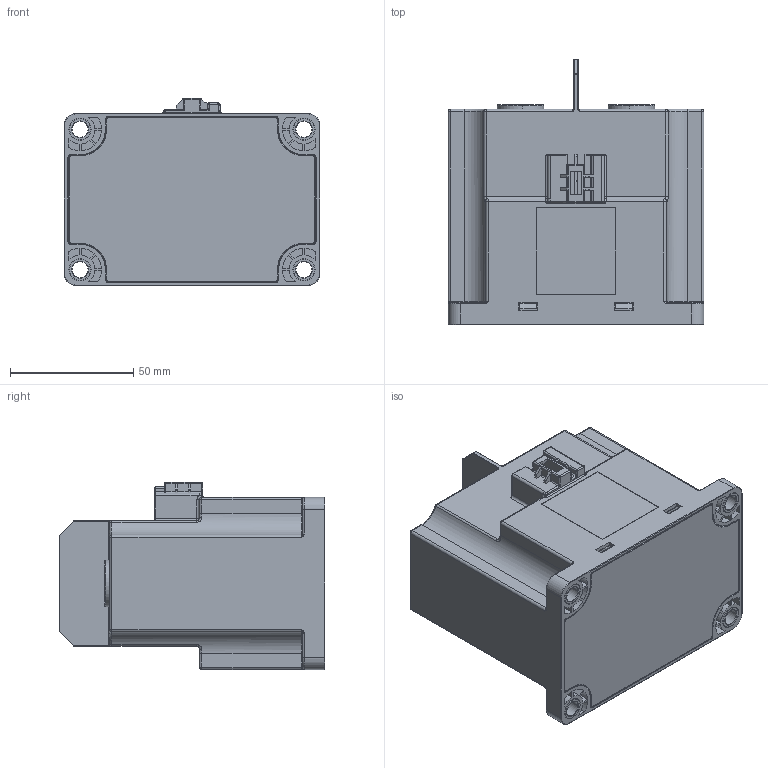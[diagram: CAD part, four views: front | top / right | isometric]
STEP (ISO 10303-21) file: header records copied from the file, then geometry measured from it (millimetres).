
FILE_DESCRIPTION (( 'STEP AP203' ), '1' );
FILE_NAME ('NDZ3AT-350杅耀.STEP', '2021-07-24T01:19:22', ( '' ), ( '' ), 'SwSTEP 2.0', 'SolidWorks 2018', '' );
FILE_SCHEMA (( 'CONFIG_CONTROL_DESIGN' ));
Length unit declared in the file: millimetre
Products named in the file (6): NDZ3AT-350杅耀; 5LD.004.0012; 8LD.005.0166; 8LD.005.0165; 8LD.144.0005; 5LD.005.0052
Assembly tree (8 placements, depth 3):
  NDZ3AT-350杅耀
    5LD.005.0052
      8LD.005.0165
      8LD.144.0005  x4
    5LD.004.0012
    8LD.005.0166
Bounding box: 104 x 107.9 x 76.1 mm (x, y, z)
Volume: 84391.9 mm3; surface area: 127372 mm2
Topology: 6 solids, 21 shells, 1616 faces, 4103 edges, 2503 vertices
Faces by surface type: plane 745, cylinder 599, torus 185, bspline 38, sphere 29, cone 20
Entity records: 53339 total; most frequent: CARTESIAN_POINT 15229, DIRECTION 7809, ORIENTED_EDGE 7800, EDGE_CURVE 3964, AXIS2_PLACEMENT_3D 2619, LINE 2571, VECTOR 2571, VERTEX_POINT 2451
